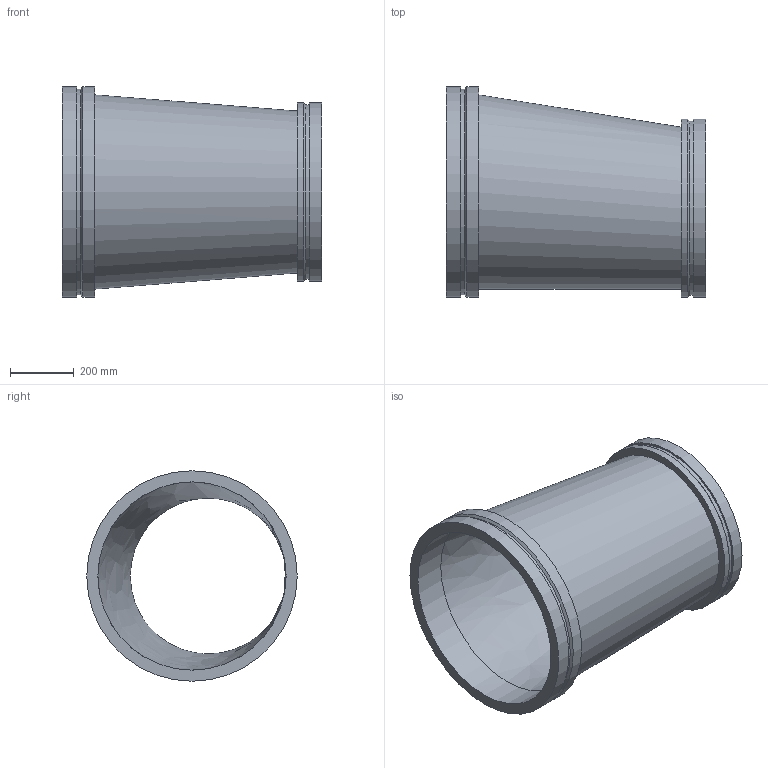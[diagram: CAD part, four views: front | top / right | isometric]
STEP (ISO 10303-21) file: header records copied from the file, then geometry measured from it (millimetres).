
FILE_DESCRIPTION(/* description */ ('VIC REDUCER ECCENTRIC No W51-VR','CAx-IF Rec.Pracs.---Representation and Presentation of Product Manufacturing Information (PMI)---4.0---2014-10-13'),/* implementation_level */ '2;1');
FILE_NAME(/* name */ 'C:\Users\kkamble\AppData\Roaming\Autodesk\ApplicationPlugins\Back Up\Victaulic_Vic-Ring_Reducer Eccentric_No W51 VR (AGR)\Victaulic_Vic-Ring_Reducer Eccentric_No W51 VR (AGR)_24.0x20.0 (600x500).stp',/* time_stamp */ '2020-09-10T11:49:25+05:00',/* author */ ('CONSTRUCTION PIPING SERVICES'),/* organization */ ('Victaulic'),/* preprocessor_version */ 'ST-DEVELOPER v17.2',/* originating_system */ 'Autodesk Inventor 2019',/* authorisation */ '');
FILE_SCHEMA (('AP242_MANAGED_MODEL_BASED_3D_ENGINEERING_MIM_LF { 1 0 10303 442 1 1 4 }'));
Length unit declared in the file: inch
Products named in the file (1): W51 VR-24.0x20.0
Bounding box: 812.8 x 660.4 x 660.4 mm (x, y, z)
Volume: 21401166.2 mm3; surface area: 3108089.9 mm2
Topology: 1 solids, 1 shells, 18 faces, 49 edges, 37 vertices
Faces by surface type: cylinder 8, plane 6, cone 2, bspline 2
Full cylindrical faces by diameter (mm): 488.95 x1, 546.1 x1, 558.8 x2, 590.55 x1, 645.922 x1, 660.4 x2
Entity records: 792 total; most frequent: CARTESIAN_POINT 158, DIRECTION 144, ORIENTED_EDGE 98, AXIS2_PLACEMENT_3D 67, EDGE_CURVE 49, CIRCLE 37, VERTEX_POINT 37, EDGE_LOOP 24
